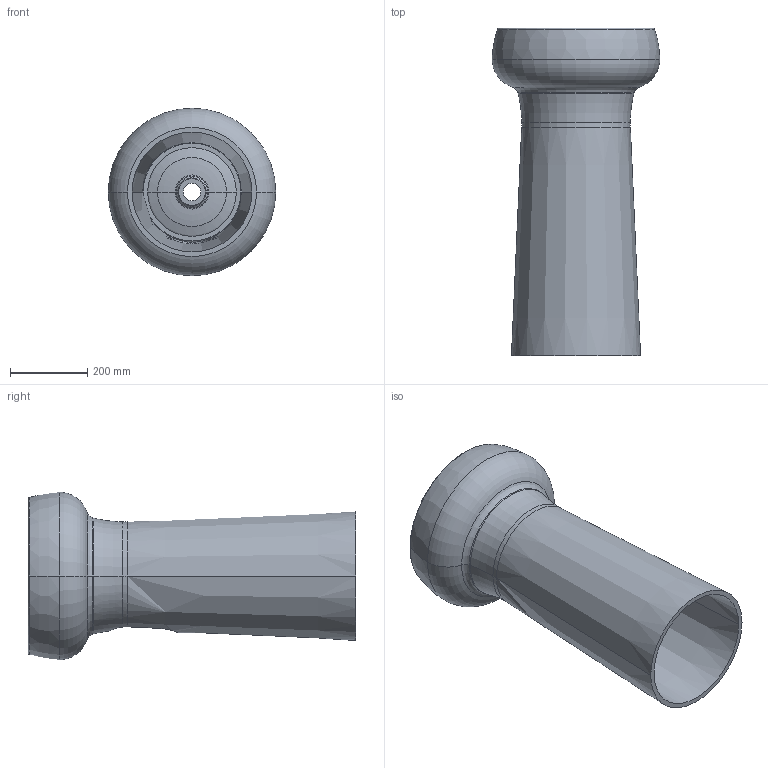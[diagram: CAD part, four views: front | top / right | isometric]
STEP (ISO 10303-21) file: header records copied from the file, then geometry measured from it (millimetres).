
FILE_DESCRIPTION (( 'STEP AP203' ), '1' );
FILE_NAME ('LAVABO FREESTANDING GRAAL.STEP', '2015-03-30T16:41:59', ( '' ), ( '' ), 'SwSTEP 2.0', 'SolidWorks 2013', '' );
FILE_SCHEMA (( 'CONFIG_CONTROL_DESIGN' ));
Length unit declared in the file: millimetre
Products named in the file (1): LAVABO FREESTANDING GRAAL
Bounding box: 435 x 850 x 435 mm (x, y, z)
Volume: 12930668.7 mm3; surface area: 2152166.5 mm2
Topology: 1 solids, 1 shells, 79 faces, 170 edges, 98 vertices
Faces by surface type: torus 46, cylinder 12, plane 11, cone 10
Entity records: 2521 total; most frequent: CARTESIAN_POINT 650, DIRECTION 444, ORIENTED_EDGE 340, AXIS2_PLACEMENT_3D 210, EDGE_CURVE 170, CIRCLE 130, VERTEX_POINT 98, EDGE_LOOP 88
